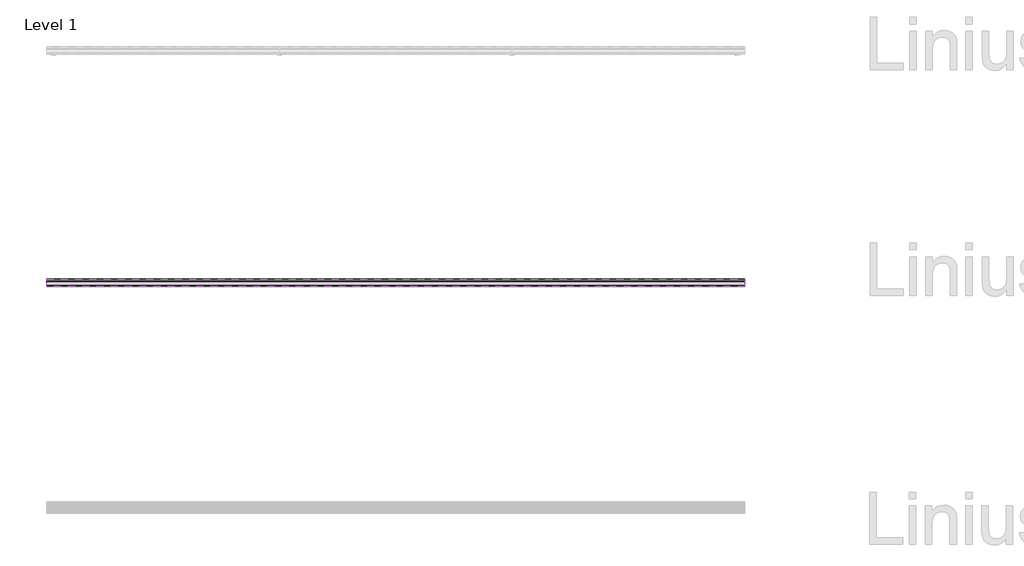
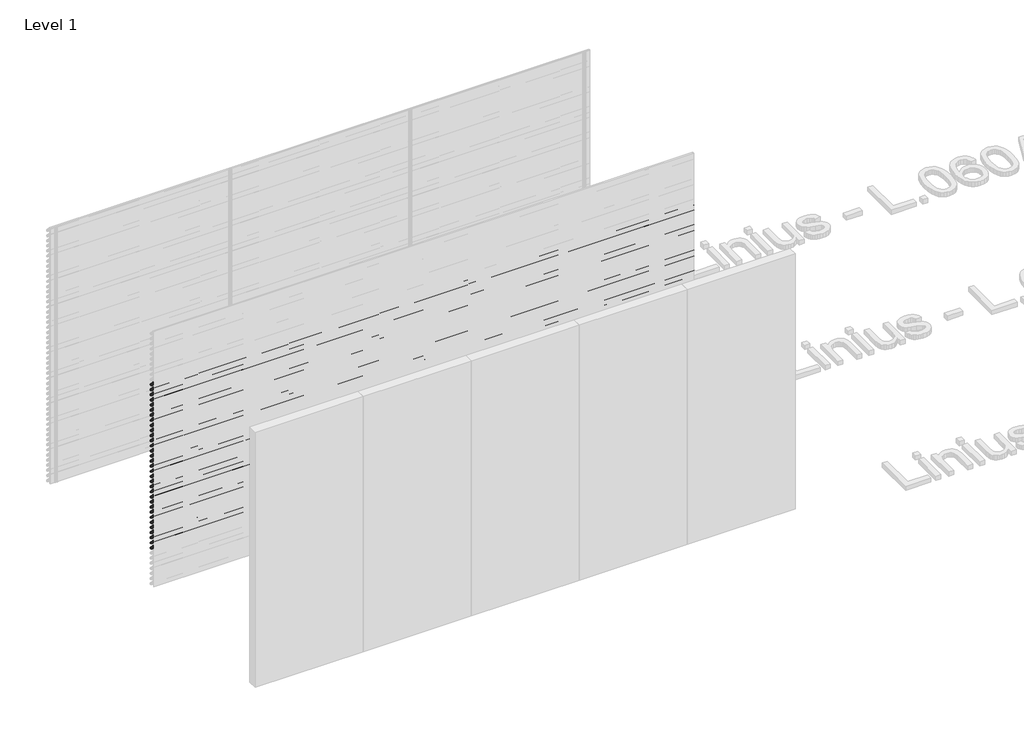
# One storey, part 142 of 153: 33 proxies.
"""IFC4 building model written with IfcOpenShell, lengths in millimetres."""

from ifc_helpers import new_model, si_unit, point, frame, frame_2d, origin, place, context, project, spatial, polyline, circle_curve, trimmed, segment, composite_curve, outline, extrude, element, save

model = new_model("IFC4")

# Units and contexts
model_context = context("Model", 3, world=origin())
ifc_project = project(units=[si_unit("LENGTHUNIT", "METRE", prefix="MILLI")], contexts=[model_context])

# Site, building, storey
site = spatial("IfcSite", under=ifc_project)
building = spatial("IfcBuilding", under=site)
storey = spatial("IfcBuildingStorey", under=building, Name="Level 1", Elevation=0.0)

# Proxies
placement = place(None, origin())
element("IfcBuildingElementProxy", 1, Name="Wall Sweeps", at=placement, inside=storey, context=model_context, shape_type="SweptSolid", body=[
    extrude(outline(composite_curve([segment(polyline([(71985.0540136, 2400.0), (71999.874191, 2398.7034025), (72049.0540136, 2345.0102749), (72049.0540136, 2333.6108187)]), True, "CONTINUOUS"), segment(trimmed(circle_curve(frame_2d((72045.7883652, 2333.897153)), 3.2781774), [point((72049.0540136, 2333.6108187))], [point((72046.4639442, 2330.6893438))], False, "CARTESIAN"), True, "CONTINUOUS"), segment(polyline([(72046.4639442, 2330.6893438), (72034.1895723, 2331.6282758), (71985.0540136, 2385.2730773), (71985.0540136, 2400.0)]), True, "CONTINUOUS")], self_intersect=False), holes=[composite_curve([segment(polyline([(71999.1621773, 2397.2599659), (71986.5540136, 2398.3630372), (71986.5540136, 2385.856213), (72034.8952036, 2333.0786805), (72046.3312542, 2332.2038762)]), True, "CONTINUOUS"), segment(trimmed(circle_curve(frame_2d((72045.7883652, 2333.897153)), 1.7781774), [point((72046.3312542, 2332.2038762))], [point((72047.5540136, 2333.6864389))], True, "CARTESIAN"), True, "CONTINUOUS"), segment(polyline([(72047.5540136, 2333.6864389), (72047.5540136, 2344.4271392), (71999.1621773, 2397.2599659)]), True, "CONTINUOUS")], self_intersect=False)]), frame((44966.6208097, 0.0, 0.0), z_axis=(1.0, 0.0, 0.0), x_axis=(0.0, 1.0, 0.0)), (0.0, 0.0, 1.0), 6000.0),
])
element("IfcBuildingElementProxy", 2, Name="Wall Sweeps", at=placement, inside=storey, context=model_context, shape_type="SweptSolid", body=[
    extrude(outline(composite_curve([segment(polyline([(71985.0540136, 2340.0), (71999.874191, 2338.7034025), (72049.0540136, 2285.0102749), (72049.0540136, 2273.6108187)]), True, "CONTINUOUS"), segment(trimmed(circle_curve(frame_2d((72045.7883652, 2273.897153)), 3.2781774), [point((72049.0540136, 2273.6108187))], [point((72046.4639442, 2270.6893438))], False, "CARTESIAN"), True, "CONTINUOUS"), segment(polyline([(72046.4639442, 2270.6893438), (72034.1895723, 2271.6282758), (71985.0540136, 2325.2730773), (71985.0540136, 2340.0)]), True, "CONTINUOUS")], self_intersect=False), holes=[composite_curve([segment(polyline([(71999.1621773, 2337.2599659), (71986.5540136, 2338.3630372), (71986.5540136, 2325.856213), (72034.8952036, 2273.0786805), (72046.3312542, 2272.2038762)]), True, "CONTINUOUS"), segment(trimmed(circle_curve(frame_2d((72045.7883652, 2273.897153)), 1.7781774), [point((72046.3312542, 2272.2038762))], [point((72047.5540136, 2273.6864389))], True, "CARTESIAN"), True, "CONTINUOUS"), segment(polyline([(72047.5540136, 2273.6864389), (72047.5540136, 2284.4271392), (71999.1621773, 2337.2599659)]), True, "CONTINUOUS")], self_intersect=False)]), frame((44966.6208097, 0.0, 0.0), z_axis=(1.0, 0.0, 0.0), x_axis=(0.0, 1.0, 0.0)), (0.0, 0.0, 1.0), 6000.0),
])
element("IfcBuildingElementProxy", 3, Name="Wall Sweeps", at=placement, inside=storey, context=model_context, shape_type="SweptSolid", body=[
    extrude(outline(composite_curve([segment(polyline([(71985.0540136, 2280.0), (71999.874191, 2278.7034025), (72049.0540136, 2225.0102749), (72049.0540136, 2213.6108187)]), True, "CONTINUOUS"), segment(trimmed(circle_curve(frame_2d((72045.7883652, 2213.897153)), 3.2781774), [point((72049.0540136, 2213.6108187))], [point((72046.4639442, 2210.6893438))], False, "CARTESIAN"), True, "CONTINUOUS"), segment(polyline([(72046.4639442, 2210.6893438), (72034.1895723, 2211.6282758), (71985.0540136, 2265.2730773), (71985.0540136, 2280.0)]), True, "CONTINUOUS")], self_intersect=False), holes=[composite_curve([segment(polyline([(71999.1621773, 2277.2599659), (71986.5540136, 2278.3630372), (71986.5540136, 2265.856213), (72034.8952036, 2213.0786805), (72046.3312542, 2212.2038762)]), True, "CONTINUOUS"), segment(trimmed(circle_curve(frame_2d((72045.7883652, 2213.897153)), 1.7781774), [point((72046.3312542, 2212.2038762))], [point((72047.5540136, 2213.6864389))], True, "CARTESIAN"), True, "CONTINUOUS"), segment(polyline([(72047.5540136, 2213.6864389), (72047.5540136, 2224.4271392), (71999.1621773, 2277.2599659)]), True, "CONTINUOUS")], self_intersect=False)]), frame((44966.6208097, 0.0, 0.0), z_axis=(1.0, 0.0, 0.0), x_axis=(0.0, 1.0, 0.0)), (0.0, 0.0, 1.0), 6000.0),
])
element("IfcBuildingElementProxy", 4, Name="Wall Sweeps", at=placement, inside=storey, context=model_context, shape_type="SweptSolid", body=[
    extrude(outline(composite_curve([segment(polyline([(71985.0540136, 2220.0), (71999.874191, 2218.7034025), (72049.0540136, 2165.0102749), (72049.0540136, 2153.6108187)]), True, "CONTINUOUS"), segment(trimmed(circle_curve(frame_2d((72045.7883652, 2153.897153)), 3.2781774), [point((72049.0540136, 2153.6108187))], [point((72046.4639442, 2150.6893438))], False, "CARTESIAN"), True, "CONTINUOUS"), segment(polyline([(72046.4639442, 2150.6893438), (72034.1895723, 2151.6282758), (71985.0540136, 2205.2730773), (71985.0540136, 2220.0)]), True, "CONTINUOUS")], self_intersect=False), holes=[composite_curve([segment(polyline([(71999.1621773, 2217.2599659), (71986.5540136, 2218.3630372), (71986.5540136, 2205.856213), (72034.8952036, 2153.0786805), (72046.3312542, 2152.2038762)]), True, "CONTINUOUS"), segment(trimmed(circle_curve(frame_2d((72045.7883652, 2153.897153)), 1.7781774), [point((72046.3312542, 2152.2038762))], [point((72047.5540136, 2153.6864389))], True, "CARTESIAN"), True, "CONTINUOUS"), segment(polyline([(72047.5540136, 2153.6864389), (72047.5540136, 2164.4271392), (71999.1621773, 2217.2599659)]), True, "CONTINUOUS")], self_intersect=False)]), frame((44966.6208097, 0.0, 0.0), z_axis=(1.0, 0.0, 0.0), x_axis=(0.0, 1.0, 0.0)), (0.0, 0.0, 1.0), 6000.0),
])
element("IfcBuildingElementProxy", 5, Name="Wall Sweeps", at=placement, inside=storey, context=model_context, shape_type="SweptSolid", body=[
    extrude(outline(composite_curve([segment(polyline([(71985.0540136, 2160.0), (71999.874191, 2158.7034025), (72049.0540136, 2105.0102749), (72049.0540136, 2093.6108187)]), True, "CONTINUOUS"), segment(trimmed(circle_curve(frame_2d((72045.7883652, 2093.897153)), 3.2781774), [point((72049.0540136, 2093.6108187))], [point((72046.4639442, 2090.6893438))], False, "CARTESIAN"), True, "CONTINUOUS"), segment(polyline([(72046.4639442, 2090.6893438), (72034.1895723, 2091.6282758), (71985.0540136, 2145.2730773), (71985.0540136, 2160.0)]), True, "CONTINUOUS")], self_intersect=False), holes=[composite_curve([segment(polyline([(71999.1621773, 2157.2599659), (71986.5540136, 2158.3630372), (71986.5540136, 2145.856213), (72034.8952036, 2093.0786805), (72046.3312542, 2092.2038762)]), True, "CONTINUOUS"), segment(trimmed(circle_curve(frame_2d((72045.7883652, 2093.897153)), 1.7781774), [point((72046.3312542, 2092.2038762))], [point((72047.5540136, 2093.6864389))], True, "CARTESIAN"), True, "CONTINUOUS"), segment(polyline([(72047.5540136, 2093.6864389), (72047.5540136, 2104.4271392), (71999.1621773, 2157.2599659)]), True, "CONTINUOUS")], self_intersect=False)]), frame((44966.6208097, 0.0, 0.0), z_axis=(1.0, 0.0, 0.0), x_axis=(0.0, 1.0, 0.0)), (0.0, 0.0, 1.0), 6000.0),
])
element("IfcBuildingElementProxy", 6, Name="Wall Sweeps", at=placement, inside=storey, context=model_context, shape_type="SweptSolid", body=[
    extrude(outline(composite_curve([segment(polyline([(71985.0540136, 2100.0), (71999.874191, 2098.7034025), (72049.0540136, 2045.0102749), (72049.0540136, 2033.6108187)]), True, "CONTINUOUS"), segment(trimmed(circle_curve(frame_2d((72045.7883652, 2033.897153)), 3.2781774), [point((72049.0540136, 2033.6108187))], [point((72046.4639442, 2030.6893438))], False, "CARTESIAN"), True, "CONTINUOUS"), segment(polyline([(72046.4639442, 2030.6893438), (72034.1895723, 2031.6282758), (71985.0540136, 2085.2730773), (71985.0540136, 2100.0)]), True, "CONTINUOUS")], self_intersect=False), holes=[composite_curve([segment(polyline([(71999.1621773, 2097.2599659), (71986.5540136, 2098.3630372), (71986.5540136, 2085.856213), (72034.8952036, 2033.0786805), (72046.3312542, 2032.2038762)]), True, "CONTINUOUS"), segment(trimmed(circle_curve(frame_2d((72045.7883652, 2033.897153)), 1.7781774), [point((72046.3312542, 2032.2038762))], [point((72047.5540136, 2033.6864389))], True, "CARTESIAN"), True, "CONTINUOUS"), segment(polyline([(72047.5540136, 2033.6864389), (72047.5540136, 2044.4271392), (71999.1621773, 2097.2599659)]), True, "CONTINUOUS")], self_intersect=False)]), frame((44966.6208097, 0.0, 0.0), z_axis=(1.0, 0.0, 0.0), x_axis=(0.0, 1.0, 0.0)), (0.0, 0.0, 1.0), 6000.0),
])
element("IfcBuildingElementProxy", 7, Name="Wall Sweeps", at=placement, inside=storey, context=model_context, shape_type="SweptSolid", body=[
    extrude(outline(composite_curve([segment(polyline([(71985.0540136, 2040.0), (71999.874191, 2038.7034025), (72049.0540136, 1985.0102749), (72049.0540136, 1973.6108187)]), True, "CONTINUOUS"), segment(trimmed(circle_curve(frame_2d((72045.7883652, 1973.897153)), 3.2781774), [point((72049.0540136, 1973.6108187))], [point((72046.4639442, 1970.6893438))], False, "CARTESIAN"), True, "CONTINUOUS"), segment(polyline([(72046.4639442, 1970.6893438), (72034.1895723, 1971.6282758), (71985.0540136, 2025.2730773), (71985.0540136, 2040.0)]), True, "CONTINUOUS")], self_intersect=False), holes=[composite_curve([segment(polyline([(71999.1621773, 2037.2599659), (71986.5540136, 2038.3630372), (71986.5540136, 2025.856213), (72034.8952036, 1973.0786805), (72046.3312542, 1972.2038762)]), True, "CONTINUOUS"), segment(trimmed(circle_curve(frame_2d((72045.7883652, 1973.897153)), 1.7781774), [point((72046.3312542, 1972.2038762))], [point((72047.5540136, 1973.6864389))], True, "CARTESIAN"), True, "CONTINUOUS"), segment(polyline([(72047.5540136, 1973.6864389), (72047.5540136, 1984.4271392), (71999.1621773, 2037.2599659)]), True, "CONTINUOUS")], self_intersect=False)]), frame((44966.6208097, 0.0, 0.0), z_axis=(1.0, 0.0, 0.0), x_axis=(0.0, 1.0, 0.0)), (0.0, 0.0, 1.0), 6000.0),
])
element("IfcBuildingElementProxy", 8, Name="Wall Sweeps", at=placement, inside=storey, context=model_context, shape_type="SweptSolid", body=[
    extrude(outline(composite_curve([segment(polyline([(71985.0540136, 1980.0), (71999.874191, 1978.7034025), (72049.0540136, 1925.0102749), (72049.0540136, 1913.6108187)]), True, "CONTINUOUS"), segment(trimmed(circle_curve(frame_2d((72045.7883652, 1913.897153)), 3.2781774), [point((72049.0540136, 1913.6108187))], [point((72046.4639442, 1910.6893438))], False, "CARTESIAN"), True, "CONTINUOUS"), segment(polyline([(72046.4639442, 1910.6893438), (72034.1895723, 1911.6282758), (71985.0540136, 1965.2730773), (71985.0540136, 1980.0)]), True, "CONTINUOUS")], self_intersect=False), holes=[composite_curve([segment(polyline([(71999.1621773, 1977.2599659), (71986.5540136, 1978.3630372), (71986.5540136, 1965.856213), (72034.8952036, 1913.0786805), (72046.3312542, 1912.2038762)]), True, "CONTINUOUS"), segment(trimmed(circle_curve(frame_2d((72045.7883652, 1913.897153)), 1.7781774), [point((72046.3312542, 1912.2038762))], [point((72047.5540136, 1913.6864389))], True, "CARTESIAN"), True, "CONTINUOUS"), segment(polyline([(72047.5540136, 1913.6864389), (72047.5540136, 1924.4271392), (71999.1621773, 1977.2599659)]), True, "CONTINUOUS")], self_intersect=False)]), frame((44966.6208097, 0.0, 0.0), z_axis=(1.0, 0.0, 0.0), x_axis=(0.0, 1.0, 0.0)), (0.0, 0.0, 1.0), 6000.0),
])
element("IfcBuildingElementProxy", 9, Name="Wall Sweeps", at=placement, inside=storey, context=model_context, shape_type="SweptSolid", body=[
    extrude(outline(composite_curve([segment(polyline([(71985.0540136, 1920.0), (71999.874191, 1918.7034025), (72049.0540136, 1865.0102749), (72049.0540136, 1853.6108187)]), True, "CONTINUOUS"), segment(trimmed(circle_curve(frame_2d((72045.7883652, 1853.897153)), 3.2781774), [point((72049.0540136, 1853.6108187))], [point((72046.4639442, 1850.6893438))], False, "CARTESIAN"), True, "CONTINUOUS"), segment(polyline([(72046.4639442, 1850.6893438), (72034.1895723, 1851.6282758), (71985.0540136, 1905.2730773), (71985.0540136, 1920.0)]), True, "CONTINUOUS")], self_intersect=False), holes=[composite_curve([segment(polyline([(71999.1621773, 1917.2599659), (71986.5540136, 1918.3630372), (71986.5540136, 1905.856213), (72034.8952036, 1853.0786805), (72046.3312542, 1852.2038762)]), True, "CONTINUOUS"), segment(trimmed(circle_curve(frame_2d((72045.7883652, 1853.897153)), 1.7781774), [point((72046.3312542, 1852.2038762))], [point((72047.5540136, 1853.6864389))], True, "CARTESIAN"), True, "CONTINUOUS"), segment(polyline([(72047.5540136, 1853.6864389), (72047.5540136, 1864.4271392), (71999.1621773, 1917.2599659)]), True, "CONTINUOUS")], self_intersect=False)]), frame((44966.6208097, 0.0, 0.0), z_axis=(1.0, 0.0, 0.0), x_axis=(0.0, 1.0, 0.0)), (0.0, 0.0, 1.0), 6000.0),
])
element("IfcBuildingElementProxy", 10, Name="Wall Sweeps", at=placement, inside=storey, context=model_context, shape_type="SweptSolid", body=[
    extrude(outline(composite_curve([segment(polyline([(71985.0540136, 1860.0), (71999.874191, 1858.7034025), (72049.0540136, 1805.0102749), (72049.0540136, 1793.6108187)]), True, "CONTINUOUS"), segment(trimmed(circle_curve(frame_2d((72045.7883652, 1793.897153)), 3.2781774), [point((72049.0540136, 1793.6108187))], [point((72046.4639442, 1790.6893438))], False, "CARTESIAN"), True, "CONTINUOUS"), segment(polyline([(72046.4639442, 1790.6893438), (72034.1895723, 1791.6282758), (71985.0540136, 1845.2730773), (71985.0540136, 1860.0)]), True, "CONTINUOUS")], self_intersect=False), holes=[composite_curve([segment(polyline([(71999.1621773, 1857.2599659), (71986.5540136, 1858.3630372), (71986.5540136, 1845.856213), (72034.8952036, 1793.0786805), (72046.3312542, 1792.2038762)]), True, "CONTINUOUS"), segment(trimmed(circle_curve(frame_2d((72045.7883652, 1793.897153)), 1.7781774), [point((72046.3312542, 1792.2038762))], [point((72047.5540136, 1793.6864389))], True, "CARTESIAN"), True, "CONTINUOUS"), segment(polyline([(72047.5540136, 1793.6864389), (72047.5540136, 1804.4271392), (71999.1621773, 1857.2599659)]), True, "CONTINUOUS")], self_intersect=False)]), frame((44966.6208097, 0.0, 0.0), z_axis=(1.0, 0.0, 0.0), x_axis=(0.0, 1.0, 0.0)), (0.0, 0.0, 1.0), 6000.0),
])
element("IfcBuildingElementProxy", 11, Name="Wall Sweeps", at=placement, inside=storey, context=model_context, shape_type="SweptSolid", body=[
    extrude(outline(composite_curve([segment(polyline([(71985.0540136, 1800.0), (71999.874191, 1798.7034025), (72049.0540136, 1745.0102749), (72049.0540136, 1733.6108187)]), True, "CONTINUOUS"), segment(trimmed(circle_curve(frame_2d((72045.7883652, 1733.897153)), 3.2781774), [point((72049.0540136, 1733.6108187))], [point((72046.4639442, 1730.6893438))], False, "CARTESIAN"), True, "CONTINUOUS"), segment(polyline([(72046.4639442, 1730.6893438), (72034.1895723, 1731.6282758), (71985.0540136, 1785.2730773), (71985.0540136, 1800.0)]), True, "CONTINUOUS")], self_intersect=False), holes=[composite_curve([segment(polyline([(71999.1621773, 1797.2599659), (71986.5540136, 1798.3630372), (71986.5540136, 1785.856213), (72034.8952036, 1733.0786805), (72046.3312542, 1732.2038762)]), True, "CONTINUOUS"), segment(trimmed(circle_curve(frame_2d((72045.7883652, 1733.897153)), 1.7781774), [point((72046.3312542, 1732.2038762))], [point((72047.5540136, 1733.6864389))], True, "CARTESIAN"), True, "CONTINUOUS"), segment(polyline([(72047.5540136, 1733.6864389), (72047.5540136, 1744.4271392), (71999.1621773, 1797.2599659)]), True, "CONTINUOUS")], self_intersect=False)]), frame((44966.6208097, 0.0, 0.0), z_axis=(1.0, 0.0, 0.0), x_axis=(0.0, 1.0, 0.0)), (0.0, 0.0, 1.0), 6000.0),
])
element("IfcBuildingElementProxy", 12, Name="Wall Sweeps", at=placement, inside=storey, context=model_context, shape_type="SweptSolid", body=[
    extrude(outline(composite_curve([segment(polyline([(71985.0540136, 1740.0), (71999.874191, 1738.7034025), (72049.0540136, 1685.0102749), (72049.0540136, 1673.6108187)]), True, "CONTINUOUS"), segment(trimmed(circle_curve(frame_2d((72045.7883652, 1673.897153)), 3.2781774), [point((72049.0540136, 1673.6108187))], [point((72046.4639442, 1670.6893438))], False, "CARTESIAN"), True, "CONTINUOUS"), segment(polyline([(72046.4639442, 1670.6893438), (72034.1895723, 1671.6282758), (71985.0540136, 1725.2730773), (71985.0540136, 1740.0)]), True, "CONTINUOUS")], self_intersect=False), holes=[composite_curve([segment(polyline([(71999.1621773, 1737.2599659), (71986.5540136, 1738.3630372), (71986.5540136, 1725.856213), (72034.8952036, 1673.0786805), (72046.3312542, 1672.2038762)]), True, "CONTINUOUS"), segment(trimmed(circle_curve(frame_2d((72045.7883652, 1673.897153)), 1.7781774), [point((72046.3312542, 1672.2038762))], [point((72047.5540136, 1673.6864389))], True, "CARTESIAN"), True, "CONTINUOUS"), segment(polyline([(72047.5540136, 1673.6864389), (72047.5540136, 1684.4271392), (71999.1621773, 1737.2599659)]), True, "CONTINUOUS")], self_intersect=False)]), frame((44966.6208097, 0.0, 0.0), z_axis=(1.0, 0.0, 0.0), x_axis=(0.0, 1.0, 0.0)), (0.0, 0.0, 1.0), 6000.0),
])
element("IfcBuildingElementProxy", 13, Name="Wall Sweeps", at=placement, inside=storey, context=model_context, shape_type="SweptSolid", body=[
    extrude(outline(composite_curve([segment(polyline([(71985.0540136, 1680.0), (71999.874191, 1678.7034025), (72049.0540136, 1625.0102749), (72049.0540136, 1613.6108187)]), True, "CONTINUOUS"), segment(trimmed(circle_curve(frame_2d((72045.7883652, 1613.897153)), 3.2781774), [point((72049.0540136, 1613.6108187))], [point((72046.4639442, 1610.6893438))], False, "CARTESIAN"), True, "CONTINUOUS"), segment(polyline([(72046.4639442, 1610.6893438), (72034.1895723, 1611.6282758), (71985.0540136, 1665.2730773), (71985.0540136, 1680.0)]), True, "CONTINUOUS")], self_intersect=False), holes=[composite_curve([segment(polyline([(71999.1621773, 1677.2599659), (71986.5540136, 1678.3630372), (71986.5540136, 1665.856213), (72034.8952036, 1613.0786805), (72046.3312542, 1612.2038762)]), True, "CONTINUOUS"), segment(trimmed(circle_curve(frame_2d((72045.7883652, 1613.897153)), 1.7781774), [point((72046.3312542, 1612.2038762))], [point((72047.5540136, 1613.6864389))], True, "CARTESIAN"), True, "CONTINUOUS"), segment(polyline([(72047.5540136, 1613.6864389), (72047.5540136, 1624.4271392), (71999.1621773, 1677.2599659)]), True, "CONTINUOUS")], self_intersect=False)]), frame((44966.6208097, 0.0, 0.0), z_axis=(1.0, 0.0, 0.0), x_axis=(0.0, 1.0, 0.0)), (0.0, 0.0, 1.0), 6000.0),
])
element("IfcBuildingElementProxy", 14, Name="Wall Sweeps", at=placement, inside=storey, context=model_context, shape_type="SweptSolid", body=[
    extrude(outline(composite_curve([segment(polyline([(71985.0540136, 1620.0), (71999.874191, 1618.7034025), (72049.0540136, 1565.0102749), (72049.0540136, 1553.6108187)]), True, "CONTINUOUS"), segment(trimmed(circle_curve(frame_2d((72045.7883652, 1553.897153)), 3.2781774), [point((72049.0540136, 1553.6108187))], [point((72046.4639442, 1550.6893438))], False, "CARTESIAN"), True, "CONTINUOUS"), segment(polyline([(72046.4639442, 1550.6893438), (72034.1895723, 1551.6282758), (71985.0540136, 1605.2730773), (71985.0540136, 1620.0)]), True, "CONTINUOUS")], self_intersect=False), holes=[composite_curve([segment(polyline([(71999.1621773, 1617.2599659), (71986.5540136, 1618.3630372), (71986.5540136, 1605.856213), (72034.8952036, 1553.0786805), (72046.3312542, 1552.2038762)]), True, "CONTINUOUS"), segment(trimmed(circle_curve(frame_2d((72045.7883652, 1553.897153)), 1.7781774), [point((72046.3312542, 1552.2038762))], [point((72047.5540136, 1553.6864389))], True, "CARTESIAN"), True, "CONTINUOUS"), segment(polyline([(72047.5540136, 1553.6864389), (72047.5540136, 1564.4271392), (71999.1621773, 1617.2599659)]), True, "CONTINUOUS")], self_intersect=False)]), frame((44966.6208097, 0.0, 0.0), z_axis=(1.0, 0.0, 0.0), x_axis=(0.0, 1.0, 0.0)), (0.0, 0.0, 1.0), 6000.0),
])
element("IfcBuildingElementProxy", 15, Name="Wall Sweeps", at=placement, inside=storey, context=model_context, shape_type="SweptSolid", body=[
    extrude(outline(composite_curve([segment(polyline([(71985.0540136, 1560.0), (71999.874191, 1558.7034025), (72049.0540136, 1505.0102749), (72049.0540136, 1493.6108187)]), True, "CONTINUOUS"), segment(trimmed(circle_curve(frame_2d((72045.7883652, 1493.897153)), 3.2781774), [point((72049.0540136, 1493.6108187))], [point((72046.4639442, 1490.6893438))], False, "CARTESIAN"), True, "CONTINUOUS"), segment(polyline([(72046.4639442, 1490.6893438), (72034.1895723, 1491.6282758), (71985.0540136, 1545.2730773), (71985.0540136, 1560.0)]), True, "CONTINUOUS")], self_intersect=False), holes=[composite_curve([segment(polyline([(71999.1621773, 1557.2599659), (71986.5540136, 1558.3630372), (71986.5540136, 1545.856213), (72034.8952036, 1493.0786805), (72046.3312542, 1492.2038762)]), True, "CONTINUOUS"), segment(trimmed(circle_curve(frame_2d((72045.7883652, 1493.897153)), 1.7781774), [point((72046.3312542, 1492.2038762))], [point((72047.5540136, 1493.6864389))], True, "CARTESIAN"), True, "CONTINUOUS"), segment(polyline([(72047.5540136, 1493.6864389), (72047.5540136, 1504.4271392), (71999.1621773, 1557.2599659)]), True, "CONTINUOUS")], self_intersect=False)]), frame((44966.6208097, 0.0, 0.0), z_axis=(1.0, 0.0, 0.0), x_axis=(0.0, 1.0, 0.0)), (0.0, 0.0, 1.0), 6000.0),
])
element("IfcBuildingElementProxy", 16, Name="Wall Sweeps", at=placement, inside=storey, context=model_context, shape_type="SweptSolid", body=[
    extrude(outline(composite_curve([segment(polyline([(71985.0540136, 1500.0), (71999.874191, 1498.7034025), (72049.0540136, 1445.0102749), (72049.0540136, 1433.6108187)]), True, "CONTINUOUS"), segment(trimmed(circle_curve(frame_2d((72045.7883652, 1433.897153)), 3.2781774), [point((72049.0540136, 1433.6108187))], [point((72046.4639442, 1430.6893438))], False, "CARTESIAN"), True, "CONTINUOUS"), segment(polyline([(72046.4639442, 1430.6893438), (72034.1895723, 1431.6282758), (71985.0540136, 1485.2730773), (71985.0540136, 1500.0)]), True, "CONTINUOUS")], self_intersect=False), holes=[composite_curve([segment(polyline([(71999.1621773, 1497.2599659), (71986.5540136, 1498.3630372), (71986.5540136, 1485.856213), (72034.8952036, 1433.0786805), (72046.3312542, 1432.2038762)]), True, "CONTINUOUS"), segment(trimmed(circle_curve(frame_2d((72045.7883652, 1433.897153)), 1.7781774), [point((72046.3312542, 1432.2038762))], [point((72047.5540136, 1433.6864389))], True, "CARTESIAN"), True, "CONTINUOUS"), segment(polyline([(72047.5540136, 1433.6864389), (72047.5540136, 1444.4271392), (71999.1621773, 1497.2599659)]), True, "CONTINUOUS")], self_intersect=False)]), frame((44966.6208097, 0.0, 0.0), z_axis=(1.0, 0.0, 0.0), x_axis=(0.0, 1.0, 0.0)), (0.0, 0.0, 1.0), 6000.0),
])
element("IfcBuildingElementProxy", 17, Name="Wall Sweeps", at=placement, inside=storey, context=model_context, shape_type="SweptSolid", body=[
    extrude(outline(composite_curve([segment(polyline([(71985.0540136, 1440.0), (71999.874191, 1438.7034025), (72049.0540136, 1385.0102749), (72049.0540136, 1373.6108187)]), True, "CONTINUOUS"), segment(trimmed(circle_curve(frame_2d((72045.7883652, 1373.897153)), 3.2781774), [point((72049.0540136, 1373.6108187))], [point((72046.4639442, 1370.6893438))], False, "CARTESIAN"), True, "CONTINUOUS"), segment(polyline([(72046.4639442, 1370.6893438), (72034.1895723, 1371.6282758), (71985.0540136, 1425.2730773), (71985.0540136, 1440.0)]), True, "CONTINUOUS")], self_intersect=False), holes=[composite_curve([segment(polyline([(71999.1621773, 1437.2599659), (71986.5540136, 1438.3630372), (71986.5540136, 1425.856213), (72034.8952036, 1373.0786805), (72046.3312542, 1372.2038762)]), True, "CONTINUOUS"), segment(trimmed(circle_curve(frame_2d((72045.7883652, 1373.897153)), 1.7781774), [point((72046.3312542, 1372.2038762))], [point((72047.5540136, 1373.6864389))], True, "CARTESIAN"), True, "CONTINUOUS"), segment(polyline([(72047.5540136, 1373.6864389), (72047.5540136, 1384.4271392), (71999.1621773, 1437.2599659)]), True, "CONTINUOUS")], self_intersect=False)]), frame((44966.6208097, 0.0, 0.0), z_axis=(1.0, 0.0, 0.0), x_axis=(0.0, 1.0, 0.0)), (0.0, 0.0, 1.0), 6000.0),
])
element("IfcBuildingElementProxy", 18, Name="Wall Sweeps", at=placement, inside=storey, context=model_context, shape_type="SweptSolid", body=[
    extrude(outline(composite_curve([segment(polyline([(71985.0540136, 1380.0), (71999.874191, 1378.7034025), (72049.0540136, 1325.0102749), (72049.0540136, 1313.6108187)]), True, "CONTINUOUS"), segment(trimmed(circle_curve(frame_2d((72045.7883652, 1313.897153)), 3.2781774), [point((72049.0540136, 1313.6108187))], [point((72046.4639442, 1310.6893438))], False, "CARTESIAN"), True, "CONTINUOUS"), segment(polyline([(72046.4639442, 1310.6893438), (72034.1895723, 1311.6282758), (71985.0540136, 1365.2730773), (71985.0540136, 1380.0)]), True, "CONTINUOUS")], self_intersect=False), holes=[composite_curve([segment(polyline([(71999.1621773, 1377.2599659), (71986.5540136, 1378.3630372), (71986.5540136, 1365.856213), (72034.8952036, 1313.0786805), (72046.3312542, 1312.2038762)]), True, "CONTINUOUS"), segment(trimmed(circle_curve(frame_2d((72045.7883652, 1313.897153)), 1.7781774), [point((72046.3312542, 1312.2038762))], [point((72047.5540136, 1313.6864389))], True, "CARTESIAN"), True, "CONTINUOUS"), segment(polyline([(72047.5540136, 1313.6864389), (72047.5540136, 1324.4271392), (71999.1621773, 1377.2599659)]), True, "CONTINUOUS")], self_intersect=False)]), frame((44966.6208097, 0.0, 0.0), z_axis=(1.0, 0.0, 0.0), x_axis=(0.0, 1.0, 0.0)), (0.0, 0.0, 1.0), 6000.0),
])
element("IfcBuildingElementProxy", 19, Name="Wall Sweeps", at=placement, inside=storey, context=model_context, shape_type="SweptSolid", body=[
    extrude(outline(composite_curve([segment(polyline([(71985.0540136, 1320.0), (71999.874191, 1318.7034025), (72049.0540136, 1265.0102749), (72049.0540136, 1253.6108187)]), True, "CONTINUOUS"), segment(trimmed(circle_curve(frame_2d((72045.7883652, 1253.897153)), 3.2781774), [point((72049.0540136, 1253.6108187))], [point((72046.4639442, 1250.6893438))], False, "CARTESIAN"), True, "CONTINUOUS"), segment(polyline([(72046.4639442, 1250.6893438), (72034.1895723, 1251.6282758), (71985.0540136, 1305.2730773), (71985.0540136, 1320.0)]), True, "CONTINUOUS")], self_intersect=False), holes=[composite_curve([segment(polyline([(71999.1621773, 1317.2599659), (71986.5540136, 1318.3630372), (71986.5540136, 1305.856213), (72034.8952036, 1253.0786805), (72046.3312542, 1252.2038762)]), True, "CONTINUOUS"), segment(trimmed(circle_curve(frame_2d((72045.7883652, 1253.897153)), 1.7781774), [point((72046.3312542, 1252.2038762))], [point((72047.5540136, 1253.6864389))], True, "CARTESIAN"), True, "CONTINUOUS"), segment(polyline([(72047.5540136, 1253.6864389), (72047.5540136, 1264.4271392), (71999.1621773, 1317.2599659)]), True, "CONTINUOUS")], self_intersect=False)]), frame((44966.6208097, 0.0, 0.0), z_axis=(1.0, 0.0, 0.0), x_axis=(0.0, 1.0, 0.0)), (0.0, 0.0, 1.0), 6000.0),
])
element("IfcBuildingElementProxy", 20, Name="Wall Sweeps", at=placement, inside=storey, context=model_context, shape_type="SweptSolid", body=[
    extrude(outline(composite_curve([segment(polyline([(71985.0540136, 1260.0), (71999.874191, 1258.7034025), (72049.0540136, 1205.0102749), (72049.0540136, 1193.6108187)]), True, "CONTINUOUS"), segment(trimmed(circle_curve(frame_2d((72045.7883652, 1193.897153)), 3.2781774), [point((72049.0540136, 1193.6108187))], [point((72046.4639442, 1190.6893438))], False, "CARTESIAN"), True, "CONTINUOUS"), segment(polyline([(72046.4639442, 1190.6893438), (72034.1895723, 1191.6282758), (71985.0540136, 1245.2730773), (71985.0540136, 1260.0)]), True, "CONTINUOUS")], self_intersect=False), holes=[composite_curve([segment(polyline([(71999.1621773, 1257.2599659), (71986.5540136, 1258.3630372), (71986.5540136, 1245.856213), (72034.8952036, 1193.0786805), (72046.3312542, 1192.2038762)]), True, "CONTINUOUS"), segment(trimmed(circle_curve(frame_2d((72045.7883652, 1193.897153)), 1.7781774), [point((72046.3312542, 1192.2038762))], [point((72047.5540136, 1193.6864389))], True, "CARTESIAN"), True, "CONTINUOUS"), segment(polyline([(72047.5540136, 1193.6864389), (72047.5540136, 1204.4271392), (71999.1621773, 1257.2599659)]), True, "CONTINUOUS")], self_intersect=False)]), frame((44966.6208097, 0.0, 0.0), z_axis=(1.0, 0.0, 0.0), x_axis=(0.0, 1.0, 0.0)), (0.0, 0.0, 1.0), 6000.0),
])
element("IfcBuildingElementProxy", 21, Name="Wall Sweeps", at=placement, inside=storey, context=model_context, shape_type="SweptSolid", body=[
    extrude(outline(composite_curve([segment(polyline([(71985.0540136, 1200.0), (71999.874191, 1198.7034025), (72049.0540136, 1145.0102749), (72049.0540136, 1133.6108187)]), True, "CONTINUOUS"), segment(trimmed(circle_curve(frame_2d((72045.7883652, 1133.897153)), 3.2781774), [point((72049.0540136, 1133.6108187))], [point((72046.4639442, 1130.6893438))], False, "CARTESIAN"), True, "CONTINUOUS"), segment(polyline([(72046.4639442, 1130.6893438), (72034.1895723, 1131.6282758), (71985.0540136, 1185.2730773), (71985.0540136, 1200.0)]), True, "CONTINUOUS")], self_intersect=False), holes=[composite_curve([segment(polyline([(71999.1621773, 1197.2599659), (71986.5540136, 1198.3630372), (71986.5540136, 1185.856213), (72034.8952036, 1133.0786805), (72046.3312542, 1132.2038762)]), True, "CONTINUOUS"), segment(trimmed(circle_curve(frame_2d((72045.7883652, 1133.897153)), 1.7781774), [point((72046.3312542, 1132.2038762))], [point((72047.5540136, 1133.6864389))], True, "CARTESIAN"), True, "CONTINUOUS"), segment(polyline([(72047.5540136, 1133.6864389), (72047.5540136, 1144.4271392), (71999.1621773, 1197.2599659)]), True, "CONTINUOUS")], self_intersect=False)]), frame((44966.6208097, 0.0, 0.0), z_axis=(1.0, 0.0, 0.0), x_axis=(0.0, 1.0, 0.0)), (0.0, 0.0, 1.0), 6000.0),
])
element("IfcBuildingElementProxy", 22, Name="Wall Sweeps", at=placement, inside=storey, context=model_context, shape_type="SweptSolid", body=[
    extrude(outline(composite_curve([segment(polyline([(71985.0540136, 1140.0), (71999.874191, 1138.7034025), (72049.0540136, 1085.0102749), (72049.0540136, 1073.6108187)]), True, "CONTINUOUS"), segment(trimmed(circle_curve(frame_2d((72045.7883652, 1073.897153)), 3.2781774), [point((72049.0540136, 1073.6108187))], [point((72046.4639442, 1070.6893438))], False, "CARTESIAN"), True, "CONTINUOUS"), segment(polyline([(72046.4639442, 1070.6893438), (72034.1895723, 1071.6282758), (71985.0540136, 1125.2730773), (71985.0540136, 1140.0)]), True, "CONTINUOUS")], self_intersect=False), holes=[composite_curve([segment(polyline([(71999.1621773, 1137.2599659), (71986.5540136, 1138.3630372), (71986.5540136, 1125.856213), (72034.8952036, 1073.0786805), (72046.3312542, 1072.2038762)]), True, "CONTINUOUS"), segment(trimmed(circle_curve(frame_2d((72045.7883652, 1073.897153)), 1.7781774), [point((72046.3312542, 1072.2038762))], [point((72047.5540136, 1073.6864389))], True, "CARTESIAN"), True, "CONTINUOUS"), segment(polyline([(72047.5540136, 1073.6864389), (72047.5540136, 1084.4271392), (71999.1621773, 1137.2599659)]), True, "CONTINUOUS")], self_intersect=False)]), frame((44966.6208097, 0.0, 0.0), z_axis=(1.0, 0.0, 0.0), x_axis=(0.0, 1.0, 0.0)), (0.0, 0.0, 1.0), 6000.0),
])
element("IfcBuildingElementProxy", 23, Name="Wall Sweeps", at=placement, inside=storey, context=model_context, shape_type="SweptSolid", body=[
    extrude(outline(composite_curve([segment(polyline([(71985.0540136, 1080.0), (71999.874191, 1078.7034025), (72049.0540136, 1025.0102749), (72049.0540136, 1013.6108187)]), True, "CONTINUOUS"), segment(trimmed(circle_curve(frame_2d((72045.7883652, 1013.897153)), 3.2781774), [point((72049.0540136, 1013.6108187))], [point((72046.4639442, 1010.6893438))], False, "CARTESIAN"), True, "CONTINUOUS"), segment(polyline([(72046.4639442, 1010.6893438), (72034.1895723, 1011.6282758), (71985.0540136, 1065.2730773), (71985.0540136, 1080.0)]), True, "CONTINUOUS")], self_intersect=False), holes=[composite_curve([segment(polyline([(71999.1621773, 1077.2599659), (71986.5540136, 1078.3630372), (71986.5540136, 1065.856213), (72034.8952036, 1013.0786805), (72046.3312542, 1012.2038762)]), True, "CONTINUOUS"), segment(trimmed(circle_curve(frame_2d((72045.7883652, 1013.897153)), 1.7781774), [point((72046.3312542, 1012.2038762))], [point((72047.5540136, 1013.6864389))], True, "CARTESIAN"), True, "CONTINUOUS"), segment(polyline([(72047.5540136, 1013.6864389), (72047.5540136, 1024.4271392), (71999.1621773, 1077.2599659)]), True, "CONTINUOUS")], self_intersect=False)]), frame((44966.6208097, 0.0, 0.0), z_axis=(1.0, 0.0, 0.0), x_axis=(0.0, 1.0, 0.0)), (0.0, 0.0, 1.0), 6000.0),
])
element("IfcBuildingElementProxy", 24, Name="Wall Sweeps", at=placement, inside=storey, context=model_context, shape_type="SweptSolid", body=[
    extrude(outline(composite_curve([segment(polyline([(71985.0540136, 1020.0), (71999.874191, 1018.7034025), (72049.0540136, 965.0102749), (72049.0540136, 953.6108187)]), True, "CONTINUOUS"), segment(trimmed(circle_curve(frame_2d((72045.7883652, 953.897153)), 3.2781774), [point((72049.0540136, 953.6108187))], [point((72046.4639442, 950.6893438))], False, "CARTESIAN"), True, "CONTINUOUS"), segment(polyline([(72046.4639442, 950.6893438), (72034.1895723, 951.6282758), (71985.0540136, 1005.2730773), (71985.0540136, 1020.0)]), True, "CONTINUOUS")], self_intersect=False), holes=[composite_curve([segment(polyline([(71999.1621773, 1017.2599659), (71986.5540136, 1018.3630372), (71986.5540136, 1005.856213), (72034.8952036, 953.0786805), (72046.3312542, 952.2038762)]), True, "CONTINUOUS"), segment(trimmed(circle_curve(frame_2d((72045.7883652, 953.897153)), 1.7781774), [point((72046.3312542, 952.2038762))], [point((72047.5540136, 953.6864389))], True, "CARTESIAN"), True, "CONTINUOUS"), segment(polyline([(72047.5540136, 953.6864389), (72047.5540136, 964.4271392), (71999.1621773, 1017.2599659)]), True, "CONTINUOUS")], self_intersect=False)]), frame((44966.6208097, 0.0, 0.0), z_axis=(1.0, 0.0, 0.0), x_axis=(0.0, 1.0, 0.0)), (0.0, 0.0, 1.0), 6000.0),
])
element("IfcBuildingElementProxy", 25, Name="Wall Sweeps", at=placement, inside=storey, context=model_context, shape_type="SweptSolid", body=[
    extrude(outline(composite_curve([segment(polyline([(71985.0540136, 960.0), (71999.874191, 958.7034025), (72049.0540136, 905.0102749), (72049.0540136, 893.6108187)]), True, "CONTINUOUS"), segment(trimmed(circle_curve(frame_2d((72045.7883652, 893.897153)), 3.2781774), [point((72049.0540136, 893.6108187))], [point((72046.4639442, 890.6893438))], False, "CARTESIAN"), True, "CONTINUOUS"), segment(polyline([(72046.4639442, 890.6893438), (72034.1895723, 891.6282758), (71985.0540136, 945.2730773), (71985.0540136, 960.0)]), True, "CONTINUOUS")], self_intersect=False), holes=[composite_curve([segment(polyline([(71999.1621773, 957.2599659), (71986.5540136, 958.3630372), (71986.5540136, 945.856213), (72034.8952036, 893.0786805), (72046.3312542, 892.2038762)]), True, "CONTINUOUS"), segment(trimmed(circle_curve(frame_2d((72045.7883652, 893.897153)), 1.7781774), [point((72046.3312542, 892.2038762))], [point((72047.5540136, 893.6864389))], True, "CARTESIAN"), True, "CONTINUOUS"), segment(polyline([(72047.5540136, 893.6864389), (72047.5540136, 904.4271392), (71999.1621773, 957.2599659)]), True, "CONTINUOUS")], self_intersect=False)]), frame((44966.6208097, 0.0, 0.0), z_axis=(1.0, 0.0, 0.0), x_axis=(0.0, 1.0, 0.0)), (0.0, 0.0, 1.0), 6000.0),
])
element("IfcBuildingElementProxy", 26, Name="Wall Sweeps", at=placement, inside=storey, context=model_context, shape_type="SweptSolid", body=[
    extrude(outline(composite_curve([segment(polyline([(71985.0540136, 900.0), (71999.874191, 898.7034025), (72049.0540136, 845.0102749), (72049.0540136, 833.6108187)]), True, "CONTINUOUS"), segment(trimmed(circle_curve(frame_2d((72045.7883652, 833.897153)), 3.2781774), [point((72049.0540136, 833.6108187))], [point((72046.4639442, 830.6893438))], False, "CARTESIAN"), True, "CONTINUOUS"), segment(polyline([(72046.4639442, 830.6893438), (72034.1895723, 831.6282758), (71985.0540136, 885.2730773), (71985.0540136, 900.0)]), True, "CONTINUOUS")], self_intersect=False), holes=[composite_curve([segment(polyline([(71999.1621773, 897.2599659), (71986.5540136, 898.3630372), (71986.5540136, 885.856213), (72034.8952036, 833.0786805), (72046.3312542, 832.2038762)]), True, "CONTINUOUS"), segment(trimmed(circle_curve(frame_2d((72045.7883652, 833.897153)), 1.7781774), [point((72046.3312542, 832.2038762))], [point((72047.5540136, 833.6864389))], True, "CARTESIAN"), True, "CONTINUOUS"), segment(polyline([(72047.5540136, 833.6864389), (72047.5540136, 844.4271392), (71999.1621773, 897.2599659)]), True, "CONTINUOUS")], self_intersect=False)]), frame((44966.6208097, 0.0, 0.0), z_axis=(1.0, 0.0, 0.0), x_axis=(0.0, 1.0, 0.0)), (0.0, 0.0, 1.0), 6000.0),
])
element("IfcBuildingElementProxy", 27, Name="Wall Sweeps", at=placement, inside=storey, context=model_context, shape_type="SweptSolid", body=[
    extrude(outline(composite_curve([segment(polyline([(71985.0540136, 840.0), (71999.874191, 838.7034025), (72049.0540136, 785.0102749), (72049.0540136, 773.6108187)]), True, "CONTINUOUS"), segment(trimmed(circle_curve(frame_2d((72045.7883652, 773.897153)), 3.2781774), [point((72049.0540136, 773.6108187))], [point((72046.4639442, 770.6893438))], False, "CARTESIAN"), True, "CONTINUOUS"), segment(polyline([(72046.4639442, 770.6893438), (72034.1895723, 771.6282758), (71985.0540136, 825.2730773), (71985.0540136, 840.0)]), True, "CONTINUOUS")], self_intersect=False), holes=[composite_curve([segment(polyline([(71999.1621773, 837.2599659), (71986.5540136, 838.3630372), (71986.5540136, 825.856213), (72034.8952036, 773.0786805), (72046.3312542, 772.2038762)]), True, "CONTINUOUS"), segment(trimmed(circle_curve(frame_2d((72045.7883652, 773.897153)), 1.7781774), [point((72046.3312542, 772.2038762))], [point((72047.5540136, 773.6864389))], True, "CARTESIAN"), True, "CONTINUOUS"), segment(polyline([(72047.5540136, 773.6864389), (72047.5540136, 784.4271392), (71999.1621773, 837.2599659)]), True, "CONTINUOUS")], self_intersect=False)]), frame((44966.6208097, 0.0, 0.0), z_axis=(1.0, 0.0, 0.0), x_axis=(0.0, 1.0, 0.0)), (0.0, 0.0, 1.0), 6000.0),
])
element("IfcBuildingElementProxy", 28, Name="Wall Sweeps", at=placement, inside=storey, context=model_context, shape_type="SweptSolid", body=[
    extrude(outline(composite_curve([segment(polyline([(71985.0540136, 780.0), (71999.874191, 778.7034025), (72049.0540136, 725.0102749), (72049.0540136, 713.6108187)]), True, "CONTINUOUS"), segment(trimmed(circle_curve(frame_2d((72045.7883652, 713.897153)), 3.2781774), [point((72049.0540136, 713.6108187))], [point((72046.4639442, 710.6893438))], False, "CARTESIAN"), True, "CONTINUOUS"), segment(polyline([(72046.4639442, 710.6893438), (72034.1895723, 711.6282758), (71985.0540136, 765.2730773), (71985.0540136, 780.0)]), True, "CONTINUOUS")], self_intersect=False), holes=[composite_curve([segment(polyline([(71999.1621773, 777.2599659), (71986.5540136, 778.3630372), (71986.5540136, 765.856213), (72034.8952036, 713.0786805), (72046.3312542, 712.2038762)]), True, "CONTINUOUS"), segment(trimmed(circle_curve(frame_2d((72045.7883652, 713.897153)), 1.7781774), [point((72046.3312542, 712.2038762))], [point((72047.5540136, 713.6864389))], True, "CARTESIAN"), True, "CONTINUOUS"), segment(polyline([(72047.5540136, 713.6864389), (72047.5540136, 724.4271392), (71999.1621773, 777.2599659)]), True, "CONTINUOUS")], self_intersect=False)]), frame((44966.6208097, 0.0, 0.0), z_axis=(1.0, 0.0, 0.0), x_axis=(0.0, 1.0, 0.0)), (0.0, 0.0, 1.0), 6000.0),
])
element("IfcBuildingElementProxy", 29, Name="Wall Sweeps", at=placement, inside=storey, context=model_context, shape_type="SweptSolid", body=[
    extrude(outline(composite_curve([segment(polyline([(71985.0540136, 720.0), (71999.874191, 718.7034025), (72049.0540136, 665.0102749), (72049.0540136, 653.6108187)]), True, "CONTINUOUS"), segment(trimmed(circle_curve(frame_2d((72045.7883652, 653.897153)), 3.2781774), [point((72049.0540136, 653.6108187))], [point((72046.4639442, 650.6893438))], False, "CARTESIAN"), True, "CONTINUOUS"), segment(polyline([(72046.4639442, 650.6893438), (72034.1895723, 651.6282758), (71985.0540136, 705.2730773), (71985.0540136, 720.0)]), True, "CONTINUOUS")], self_intersect=False), holes=[composite_curve([segment(polyline([(71999.1621773, 717.2599659), (71986.5540136, 718.3630372), (71986.5540136, 705.856213), (72034.8952036, 653.0786805), (72046.3312542, 652.2038762)]), True, "CONTINUOUS"), segment(trimmed(circle_curve(frame_2d((72045.7883652, 653.897153)), 1.7781774), [point((72046.3312542, 652.2038762))], [point((72047.5540136, 653.6864389))], True, "CARTESIAN"), True, "CONTINUOUS"), segment(polyline([(72047.5540136, 653.6864389), (72047.5540136, 664.4271392), (71999.1621773, 717.2599659)]), True, "CONTINUOUS")], self_intersect=False)]), frame((44966.6208097, 0.0, 0.0), z_axis=(1.0, 0.0, 0.0), x_axis=(0.0, 1.0, 0.0)), (0.0, 0.0, 1.0), 6000.0),
])
element("IfcBuildingElementProxy", 30, Name="Wall Sweeps", at=placement, inside=storey, context=model_context, shape_type="SweptSolid", body=[
    extrude(outline(composite_curve([segment(polyline([(71985.0540136, 660.0), (71999.874191, 658.7034025), (72049.0540136, 605.0102749), (72049.0540136, 593.6108187)]), True, "CONTINUOUS"), segment(trimmed(circle_curve(frame_2d((72045.7883652, 593.897153)), 3.2781774), [point((72049.0540136, 593.6108187))], [point((72046.4639442, 590.6893438))], False, "CARTESIAN"), True, "CONTINUOUS"), segment(polyline([(72046.4639442, 590.6893438), (72034.1895723, 591.6282758), (71985.0540136, 645.2730773), (71985.0540136, 660.0)]), True, "CONTINUOUS")], self_intersect=False), holes=[composite_curve([segment(polyline([(71999.1621773, 657.2599659), (71986.5540136, 658.3630372), (71986.5540136, 645.856213), (72034.8952036, 593.0786805), (72046.3312542, 592.2038762)]), True, "CONTINUOUS"), segment(trimmed(circle_curve(frame_2d((72045.7883652, 593.897153)), 1.7781774), [point((72046.3312542, 592.2038762))], [point((72047.5540136, 593.6864389))], True, "CARTESIAN"), True, "CONTINUOUS"), segment(polyline([(72047.5540136, 593.6864389), (72047.5540136, 604.4271392), (71999.1621773, 657.2599659)]), True, "CONTINUOUS")], self_intersect=False)]), frame((44966.6208097, 0.0, 0.0), z_axis=(1.0, 0.0, 0.0), x_axis=(0.0, 1.0, 0.0)), (0.0, 0.0, 1.0), 6000.0),
])
element("IfcBuildingElementProxy", 31, Name="Wall Sweeps", at=placement, inside=storey, context=model_context, shape_type="SweptSolid", body=[
    extrude(outline(composite_curve([segment(polyline([(71985.0540136, 600.0), (71999.874191, 598.7034025), (72049.0540136, 545.0102749), (72049.0540136, 533.6108187)]), True, "CONTINUOUS"), segment(trimmed(circle_curve(frame_2d((72045.7883652, 533.897153)), 3.2781774), [point((72049.0540136, 533.6108187))], [point((72046.4639442, 530.6893438))], False, "CARTESIAN"), True, "CONTINUOUS"), segment(polyline([(72046.4639442, 530.6893438), (72034.1895723, 531.6282758), (71985.0540136, 585.2730773), (71985.0540136, 600.0)]), True, "CONTINUOUS")], self_intersect=False), holes=[composite_curve([segment(polyline([(71999.1621773, 597.2599659), (71986.5540136, 598.3630372), (71986.5540136, 585.856213), (72034.8952036, 533.0786805), (72046.3312542, 532.2038762)]), True, "CONTINUOUS"), segment(trimmed(circle_curve(frame_2d((72045.7883652, 533.897153)), 1.7781774), [point((72046.3312542, 532.2038762))], [point((72047.5540136, 533.6864389))], True, "CARTESIAN"), True, "CONTINUOUS"), segment(polyline([(72047.5540136, 533.6864389), (72047.5540136, 544.4271392), (71999.1621773, 597.2599659)]), True, "CONTINUOUS")], self_intersect=False)]), frame((44966.6208097, 0.0, 0.0), z_axis=(1.0, 0.0, 0.0), x_axis=(0.0, 1.0, 0.0)), (0.0, 0.0, 1.0), 6000.0),
])
element("IfcBuildingElementProxy", 32, Name="Wall Sweeps", at=placement, inside=storey, context=model_context, shape_type="SweptSolid", body=[
    extrude(outline(composite_curve([segment(polyline([(71985.0540136, 540.0), (71999.874191, 538.7034025), (72049.0540136, 485.0102749), (72049.0540136, 473.6108187)]), True, "CONTINUOUS"), segment(trimmed(circle_curve(frame_2d((72045.7883652, 473.897153)), 3.2781774), [point((72049.0540136, 473.6108187))], [point((72046.4639442, 470.6893438))], False, "CARTESIAN"), True, "CONTINUOUS"), segment(polyline([(72046.4639442, 470.6893438), (72034.1895723, 471.6282758), (71985.0540136, 525.2730773), (71985.0540136, 540.0)]), True, "CONTINUOUS")], self_intersect=False), holes=[composite_curve([segment(polyline([(71999.1621773, 537.2599659), (71986.5540136, 538.3630372), (71986.5540136, 525.856213), (72034.8952036, 473.0786805), (72046.3312542, 472.2038762)]), True, "CONTINUOUS"), segment(trimmed(circle_curve(frame_2d((72045.7883652, 473.897153)), 1.7781774), [point((72046.3312542, 472.2038762))], [point((72047.5540136, 473.6864389))], True, "CARTESIAN"), True, "CONTINUOUS"), segment(polyline([(72047.5540136, 473.6864389), (72047.5540136, 484.4271392), (71999.1621773, 537.2599659)]), True, "CONTINUOUS")], self_intersect=False)]), frame((44966.6208097, 0.0, 0.0), z_axis=(1.0, 0.0, 0.0), x_axis=(0.0, 1.0, 0.0)), (0.0, 0.0, 1.0), 6000.0),
])
element("IfcBuildingElementProxy", 33, Name="Wall Sweeps", at=placement, inside=storey, context=model_context, shape_type="SweptSolid", body=[
    extrude(outline(composite_curve([segment(polyline([(71985.0540136, 480.0), (71999.874191, 478.7034025), (72049.0540136, 425.0102749), (72049.0540136, 413.6108187)]), True, "CONTINUOUS"), segment(trimmed(circle_curve(frame_2d((72045.7883652, 413.897153)), 3.2781774), [point((72049.0540136, 413.6108187))], [point((72046.4639442, 410.6893438))], False, "CARTESIAN"), True, "CONTINUOUS"), segment(polyline([(72046.4639442, 410.6893438), (72034.1895723, 411.6282758), (71985.0540136, 465.2730773), (71985.0540136, 480.0)]), True, "CONTINUOUS")], self_intersect=False), holes=[composite_curve([segment(polyline([(71999.1621773, 477.2599659), (71986.5540136, 478.3630372), (71986.5540136, 465.856213), (72034.8952036, 413.0786805), (72046.3312542, 412.2038762)]), True, "CONTINUOUS"), segment(trimmed(circle_curve(frame_2d((72045.7883652, 413.897153)), 1.7781774), [point((72046.3312542, 412.2038762))], [point((72047.5540136, 413.6864389))], True, "CARTESIAN"), True, "CONTINUOUS"), segment(polyline([(72047.5540136, 413.6864389), (72047.5540136, 424.4271392), (71999.1621773, 477.2599659)]), True, "CONTINUOUS")], self_intersect=False)]), frame((44966.6208097, 0.0, 0.0), z_axis=(1.0, 0.0, 0.0), x_axis=(0.0, 1.0, 0.0)), (0.0, 0.0, 1.0), 6000.0),
])

save(model, "model.ifc")
